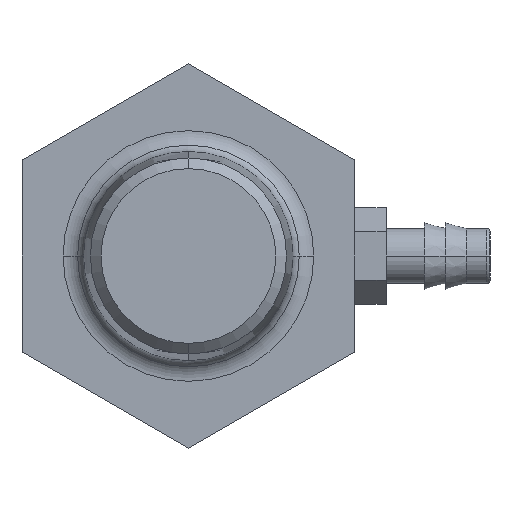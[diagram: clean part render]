
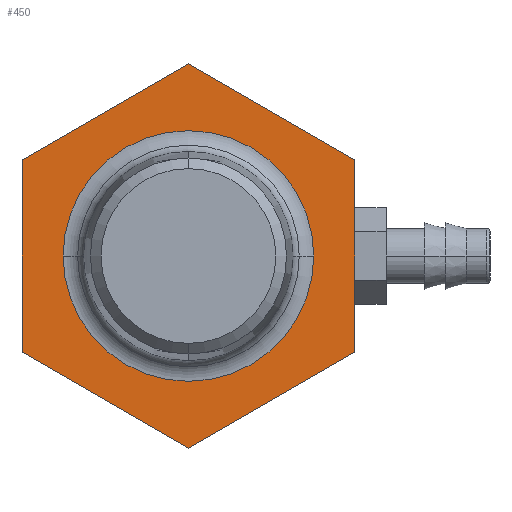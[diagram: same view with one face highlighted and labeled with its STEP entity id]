
A CAD part, left-side view. The second image highlights one B-rep face of the part: STEP entity #450.
In plain terms, the highlighted planar face has unit normal (-1, 0, 0).
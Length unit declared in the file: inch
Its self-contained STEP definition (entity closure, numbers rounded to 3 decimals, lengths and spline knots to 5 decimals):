
#200=DIRECTION('',(0.,0.866,-0.5));
#201=VECTOR('',#200,0.57735);
#202=CARTESIAN_POINT('',(-2.25,0.,0.57735));
#203=LINE('',#202,#201);
#204=DIRECTION('',(0.,0.866,0.5));
#205=VECTOR('',#204,0.57735);
#206=CARTESIAN_POINT('',(-2.25,-0.5,0.28868));
#207=LINE('',#206,#205);
#208=DIRECTION('',(0.,0.,1.));
#209=VECTOR('',#208,0.57735);
#210=CARTESIAN_POINT('',(-2.25,-0.5,-0.28868));
#211=LINE('',#210,#209);
#212=DIRECTION('',(0.,-0.866,0.5));
#213=VECTOR('',#212,0.57735);
#214=CARTESIAN_POINT('',(-2.25,0.,-0.57735));
#215=LINE('',#214,#213);
#216=DIRECTION('',(0.,-0.866,-0.5));
#217=VECTOR('',#216,0.57735);
#218=CARTESIAN_POINT('',(-2.25,0.5,-0.28868));
#219=LINE('',#218,#217);
#220=DIRECTION('',(0.,0.,-1.));
#221=VECTOR('',#220,0.57735);
#222=CARTESIAN_POINT('',(-2.25,0.5,0.28868));
#223=LINE('',#222,#221);
#224=CARTESIAN_POINT('',(-2.25,0.,0.));
#225=DIRECTION('',(1.,0.,0.));
#226=DIRECTION('',(0.,0.,1.));
#227=AXIS2_PLACEMENT_3D('',#224,#225,#226);
#229=CARTESIAN_POINT('',(-2.25,0.,0.));
#230=DIRECTION('',(1.,0.,0.));
#231=DIRECTION('',(0.,1.,0.));
#232=AXIS2_PLACEMENT_3D('',#229,#230,#231);
#234=CARTESIAN_POINT('',(-2.25,0.,0.));
#235=DIRECTION('',(1.,0.,0.));
#236=DIRECTION('',(0.,-1.,0.));
#237=AXIS2_PLACEMENT_3D('',#234,#235,#236);
#373=CARTESIAN_POINT('',(-2.25,0.,0.57735));
#374=CARTESIAN_POINT('',(-2.25,0.5,0.28868));
#375=VERTEX_POINT('',#373);
#376=VERTEX_POINT('',#374);
#381=CARTESIAN_POINT('',(-2.25,0.5,-0.28868));
#382=VERTEX_POINT('',#381);
#383=CARTESIAN_POINT('',(-2.25,-0.5,0.28868));
#384=VERTEX_POINT('',#383);
#387=CARTESIAN_POINT('',(-2.25,0.,-0.57735));
#388=VERTEX_POINT('',#387);
#389=CARTESIAN_POINT('',(-2.25,-0.5,-0.28868));
#390=VERTEX_POINT('',#389);
#405=CARTESIAN_POINT('',(-2.25,0.37658,0.));
#406=VERTEX_POINT('',#405);
#407=CARTESIAN_POINT('',(-2.25,-0.37658,0.));
#408=VERTEX_POINT('',#407);
#409=CARTESIAN_POINT('',(-2.25,0.,0.37658));
#410=VERTEX_POINT('',#409);
#423=CARTESIAN_POINT('',(-2.25,0.,0.));
#424=DIRECTION('',(-1.,0.,0.));
#425=DIRECTION('',(0.,0.,1.));
#426=AXIS2_PLACEMENT_3D('',#423,#424,#425);
#427=PLANE('',#426);
#429=ORIENTED_EDGE('',*,*,#428,.F.);
#431=ORIENTED_EDGE('',*,*,#430,.F.);
#433=ORIENTED_EDGE('',*,*,#432,.F.);
#435=ORIENTED_EDGE('',*,*,#434,.F.);
#437=ORIENTED_EDGE('',*,*,#436,.F.);
#439=ORIENTED_EDGE('',*,*,#438,.F.);
#440=EDGE_LOOP('',(#429,#431,#433,#435,#437,#439));
#441=FACE_OUTER_BOUND('',#440,.F.);
#443=ORIENTED_EDGE('',*,*,#442,.F.);
#445=ORIENTED_EDGE('',*,*,#444,.F.);
#447=ORIENTED_EDGE('',*,*,#446,.F.);
#448=EDGE_LOOP('',(#443,#445,#447));
#449=FACE_BOUND('',#448,.F.);
#228=CIRCLE('',#227,0.37658);
#233=CIRCLE('',#232,0.37658);
#238=CIRCLE('',#237,0.37658);
#428=EDGE_CURVE('',#375,#376,#203,.T.);
#430=EDGE_CURVE('',#384,#375,#207,.T.);
#432=EDGE_CURVE('',#390,#384,#211,.T.);
#434=EDGE_CURVE('',#388,#390,#215,.T.);
#436=EDGE_CURVE('',#382,#388,#219,.T.);
#438=EDGE_CURVE('',#376,#382,#223,.T.);
#442=EDGE_CURVE('',#410,#408,#228,.T.);
#444=EDGE_CURVE('',#406,#410,#233,.T.);
#446=EDGE_CURVE('',#408,#406,#238,.T.);
#450=ADVANCED_FACE('',(#441,#449),#427,.T.);
